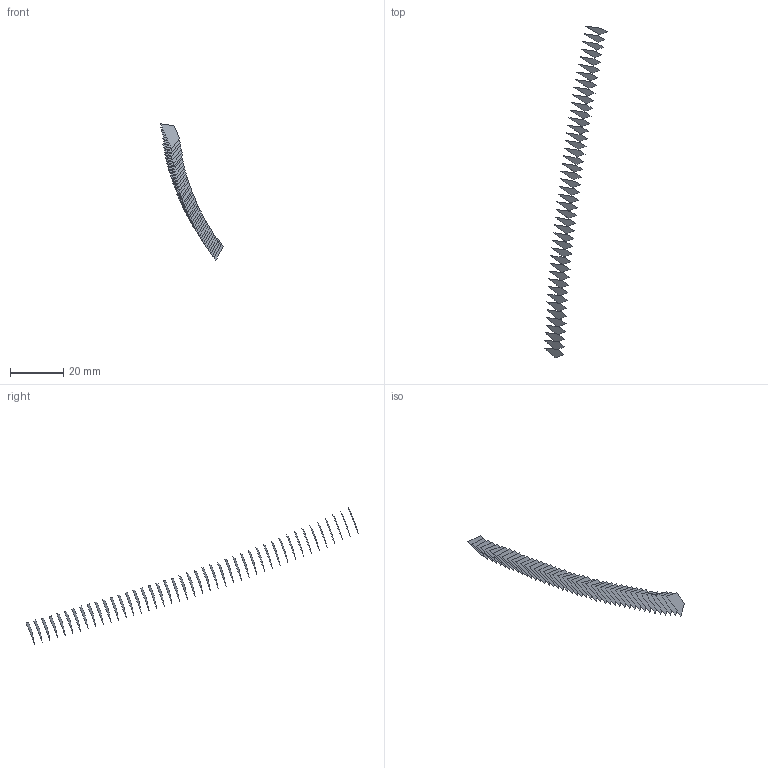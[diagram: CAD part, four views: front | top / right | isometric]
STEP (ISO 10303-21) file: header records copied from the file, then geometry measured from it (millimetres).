
FILE_DESCRIPTION(('FreeCAD Model'),'2;1');
FILE_NAME('Open CASCADE Shape Model','2022-05-22T07:50:31',('FreeCAD'),( 'FreeCAD'),'Open CASCADE STEP processor 7.5','FreeCAD','Unknown');
FILE_SCHEMA(('AUTOMOTIVE_DESIGN { 1 0 10303 214 1 1 1 1 }'));
Length unit declared in the file: millimetre
Products named in the file (44): Open CASCADE STEP translator 7.5 1; Open CASCADE STEP translator 7.5 1.1; Open CASCADE STEP translator 7.5 1.2; Open CASCADE STEP translator 7.5 1.3; Open CASCADE STEP translator 7.5 1.4; Open CASCADE STEP translator 7.5 1.5; Open CASCADE STEP translator 7.5 1.6; Open CASCADE STEP translator 7.5 1.7; Open CASCADE STEP translator 7.5 1.8; Open CASCADE STEP translator 7.5 1.9; Open CASCADE STEP translator 7.5 1.10; Open CASCADE STEP translator 7.5 1.11; Open CASCADE STEP translator 7.5 1.12; Open CASCADE STEP translator 7.5 1.13; Open CASCADE STEP translator 7.5 1.14; Open CASCADE STEP translator 7.5 1.15; Open CASCADE STEP translator 7.5 1.16; Open CASCADE STEP translator 7.5 1.17; Open CASCADE STEP translator 7.5 1.18; Open CASCADE STEP translator 7.5 1.19; Open CASCADE STEP translator 7.5 1.20; Open CASCADE STEP translator 7.5 1.21; Open CASCADE STEP translator 7.5 1.22; Open CASCADE STEP translator 7.5 1.23; Open CASCADE STEP translator 7.5 1.24; Open CASCADE STEP translator 7.5 1.25; Open CASCADE STEP translator 7.5 1.26; Open CASCADE STEP translator 7.5 1.27; Open CASCADE STEP translator 7.5 1.28; Open CASCADE STEP translator 7.5 1.29; Open CASCADE STEP translator 7.5 1.30; Open CASCADE STEP translator 7.5 1.31; Open CASCADE STEP translator 7.5 1.32; Open CASCADE STEP translator 7.5 1.33; Open CASCADE STEP translator 7.5 1.34; Open CASCADE STEP translator 7.5 1.35; Open CASCADE STEP translator 7.5 1.36; Open CASCADE STEP translator 7.5 1.37; Open CASCADE STEP translator 7.5 1.38; Open CASCADE STEP translator 7.5 1.39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
Assembly tree (43 placements, depth 2):
  Open CASCADE STEP translator 7.5 1
    Open CASCADE STEP translator 7.5 1.1
    Open CASCADE STEP translator 7.5 1.2
    Open CASCADE STEP translator 7.5 1.3
    Open CASCADE STEP translator 7.5 1.4
    Open CASCADE STEP translator 7.5 1.5
    Open CASCADE STEP translator 7.5 1.6
    Open CASCADE STEP translator 7.5 1.7
    Open CASCADE STEP translator 7.5 1.8
    Open CASCADE STEP translator 7.5 1.9
    Open CASCADE STEP translator 7.5 1.10
    Open CASCADE STEP translator 7.5 1.11
    Open CASCADE STEP translator 7.5 1.12
    Open CASCADE STEP translator 7.5 1.13
    Open CASCADE STEP translator 7.5 1.14
    Open CASCADE STEP translator 7.5 1.15
    Open CASCADE STEP translator 7.5 1.16
    Open CASCADE STEP translator 7.5 1.17
    Open CASCADE STEP translator 7.5 1.18
    Open CASCADE STEP translator 7.5 1.19
    Open CASCADE STEP translator 7.5 1.20
    Open CASCADE STEP translator 7.5 1.21
    Open CASCADE STEP translator 7.5 1.22
    Open CASCADE STEP translator 7.5 1.23
    Open CASCADE STEP translator 7.5 1.24
    Open CASCADE STEP translator 7.5 1.25
    Open CASCADE STEP translator 7.5 1.26
    Open CASCADE STEP translator 7.5 1.27
    Open CASCADE STEP translator 7.5 1.28
    Open CASCADE STEP translator 7.5 1.29
    Open CASCADE STEP translator 7.5 1.30
    Open CASCADE STEP translator 7.5 1.31
    Open CASCADE STEP translator 7.5 1.32
    Open CASCADE STEP translator 7.5 1.33
    Open CASCADE STEP translator 7.5 1.34
    Open CASCADE STEP translator 7.5 1.35
    Open CASCADE STEP translator 7.5 1.36
    Open CASCADE STEP translator 7.5 1.37
    Open CASCADE STEP translator 7.5 1.38
    Open CASCADE STEP translator 7.5 1.39
    Open CASCADE STEP translator 7.5 1.40
    Open CASCADE STEP translator 7.5 1.41
    Open CASCADE STEP translator 7.5 1.42
    Open CASCADE STEP translator 7.5 1.43
Bounding box: 23.4 x 124.2 x 51.03 mm (x, y, z)
Surface area: 1548.3 mm2 (no closed solid volume)
Topology: 0 solids, 43 shells, 43 faces, 892 edges, 892 vertices
Faces by surface type: bspline 43
Entity records: 12816 total; most frequent: CARTESIAN_POINT 4676, B_SPLINE_CURVE_WITH_KNOTS 1784, ORIENTED_EDGE 892, EDGE_CURVE 892, VERTEX_POINT 892, SURFACE_CURVE 892, PCURVE 892, DEFINITIONAL_REPRESENTATION 892
